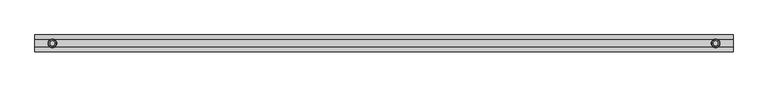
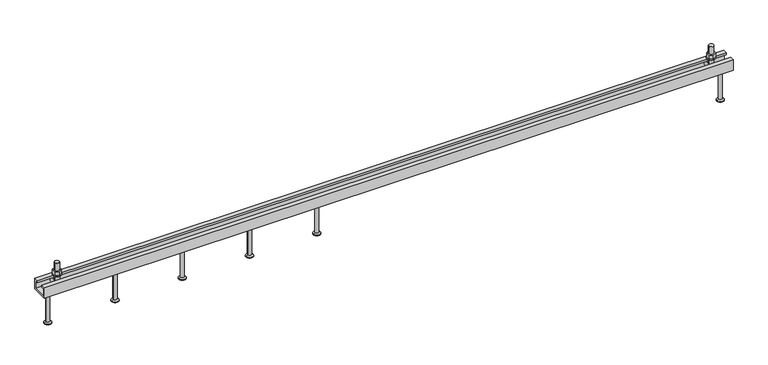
"""IFC4 building model written with IfcOpenShell, lengths in millimetres: fastener geometry, JTA-W JORDAHL® AnchorChannels : JTA-W L=3000 mm."""

import ifcopenshell
import ifcopenshell.guid

model = None  # the IFC model being written
_history = None  # IfcOwnerHistory: only IFC2X3 demands one
_inside = {}  # id of a spatial element -> (the spatial element, [elements in it])
_under = {}  # id of a project, library or spatial element -> (it, [spatial elements below it])
_declared = {}  # id of a project -> (the project, [libraries it declares])
_typed = {}  # id of a type object -> (the type object, [elements of that type])
_made_of = {}  # id of a material, layer set ... -> (it, [elements and type objects made of it])


def new_model(schema):
    """Start an empty IFC model of exactly this schema.

    Asked for "IFC4X3", IfcOpenShell would pick the latest addendum, in which some entities
    have other attributes; the version numbers below select the first issue.
    IFC2X3 requires an IfcOwnerHistory on every rooted entity: one is made here for all.
    """
    global model, _history
    if schema == "IFC4X3":
        model = ifcopenshell.file(schema_version=(4, 3, 0, 0))
    else:
        model = ifcopenshell.file(schema=schema)
    _inside.clear()
    _under.clear()
    _declared.clear()
    _typed.clear()
    _made_of.clear()
    _history = None
    if model.schema == "IFC2X3":
        org = make("IfcOrganization", Name="unknown")
        user = make(
            "IfcPersonAndOrganization",
            ThePerson=make("IfcPerson", FamilyName="unknown"),
            TheOrganization=org,
        )
        app = make(
            "IfcApplication",
            ApplicationDeveloper=org,
            Version="unknown",
            ApplicationFullName="unknown",
            ApplicationIdentifier="unknown",
        )
        _history = make(
            "IfcOwnerHistory",
            OwningUser=user,
            OwningApplication=app,
            ChangeAction="ADDED",
            CreationDate=0,
        )
    return model


def make(cls, **values):
    """One entity of the class cls with the attributes given. An attribute that is None is left unset."""
    return model.create_entity(
        cls, **{name: value for name, value in values.items() if value is not None}
    )


def rooted(cls, **values):
    """An entity with a GlobalId (a new one), such as an element, a storey or a relation."""
    return make(cls, GlobalId=ifcopenshell.guid.new(), OwnerHistory=_history, **values)


def si_unit(unit_type, name, prefix=None):
    """IfcSIUnit, for example si_unit("LENGTHUNIT", "METRE", prefix="MILLI")."""
    return make("IfcSIUnit", UnitType=unit_type, Prefix=prefix, Name=name)


def assignment(units):
    """IfcUnitAssignment: the units of a project."""
    return None if units is None else make("IfcUnitAssignment", Units=units)


def point(xyz):
    """IfcCartesianPoint."""
    return None if xyz is None else make("IfcCartesianPoint", Coordinates=xyz)


def direction(xyz):
    """IfcDirection."""
    return None if xyz is None else make("IfcDirection", DirectionRatios=xyz)


def frame(location, z_axis=None, x_axis=None):
    """IfcAxis2Placement3D, a coordinate frame: its origin and axes. An axis left out is left unset."""
    return make(
        "IfcAxis2Placement3D",
        Location=point(location),
        Axis=direction(z_axis),
        RefDirection=direction(x_axis),
    )


def frame_2d(location, x_axis=None):
    """IfcAxis2Placement2D, a coordinate frame in the plane: its origin and x axis."""
    return make(
        "IfcAxis2Placement2D", Location=point(location), RefDirection=direction(x_axis)
    )


def origin():
    """The frame at (0, 0, 0) with its axes left unset."""
    return frame((0.0, 0.0, 0.0))


def place(relative_to, where):
    """IfcLocalPlacement: puts the frame where relative to a parent placement (None: the world)."""
    return make(
        "IfcLocalPlacement", PlacementRelTo=relative_to, RelativePlacement=where
    )


def context(
    kind, dimensions, precision=None, world=None, true_north=None, identifier=None
):
    """IfcGeometricRepresentationContext, for example the 3D "Model" context."""
    return make(
        "IfcGeometricRepresentationContext",
        ContextIdentifier=identifier,
        ContextType=kind,
        CoordinateSpaceDimension=dimensions,
        Precision=precision,
        WorldCoordinateSystem=world,
        TrueNorth=true_north,
    )


def project(units=None, contexts=None):
    """IfcProject with its units and contexts."""
    return rooted(
        "IfcProject",
        Name="project",
        RepresentationContexts=contexts,
        UnitsInContext=assignment(units),
    )


def spatial(cls, under=None, at=None, **own):
    """A site, building, storey or space (cls), placed at a placement, below another one or the project."""
    s = rooted(cls, ObjectPlacement=at, **own)
    if under is not None:
        _under.setdefault(under.id(), (under, []))[1].append(s)
    return s


def polyline(points):
    """IfcPolyline through the points."""
    return make("IfcPolyline", Points=[point(p) for p in points])


def circle_curve(where, radius):
    """IfcCircle in the frame where."""
    return make("IfcCircle", Position=where, Radius=radius)


def trimmed(basis, trim1, trim2, sense, master):
    """IfcTrimmedCurve: the piece of a basis curve between two trims."""
    return make(
        "IfcTrimmedCurve",
        BasisCurve=basis,
        Trim1=trim1,
        Trim2=trim2,
        SenseAgreement=sense,
        MasterRepresentation=master,
    )


def segment(curve, same_sense, transition):
    """IfcCompositeCurveSegment."""
    return make(
        "IfcCompositeCurveSegment",
        Transition=transition,
        SameSense=same_sense,
        ParentCurve=curve,
    )


def composite_curve(segments, self_intersect=None):
    """IfcCompositeCurve: segments joined end to end."""
    return make("IfcCompositeCurve", Segments=segments, SelfIntersect=self_intersect)


def outline(outer, holes=None, kind="AREA"):
    """IfcArbitraryClosedProfileDef: a profile drawn as a closed curve; with holes, ...WithVoids."""
    if holes is None:
        return make("IfcArbitraryClosedProfileDef", ProfileType=kind, OuterCurve=outer)
    return make(
        "IfcArbitraryProfileDefWithVoids",
        ProfileType=kind,
        OuterCurve=outer,
        InnerCurves=holes,
    )


def extrude(swept, where, along, depth):
    """IfcExtrudedAreaSolid: the profile swept, set in the frame where, extruded along a direction by depth."""
    return make(
        "IfcExtrudedAreaSolid",
        SweptArea=swept,
        Position=where,
        ExtrudedDirection=direction(along),
        Depth=depth,
    )


def shape(context_of_items, identifier, shape_type, items):
    """IfcShapeRepresentation: the items that make up one representation, for example the "Body"."""
    return make(
        "IfcShapeRepresentation",
        ContextOfItems=context_of_items,
        RepresentationIdentifier=identifier,
        RepresentationType=shape_type,
        Items=items,
    )


def source(mapping_origin, context_of_items, identifier, shape_type, items):
    """IfcRepresentationMap: a shape defined once, which mapped items show again and again."""
    return make(
        "IfcRepresentationMap",
        MappingOrigin=mapping_origin,
        MappedRepresentation=shape(context_of_items, identifier, shape_type, items),
    )


def transform(
    local_origin,
    x_axis=None,
    y_axis=None,
    z_axis=None,
    scale=None,
    scale2=None,
    scale3=None,
    uniform=True,
):
    """IfcCartesianTransformationOperator3D, or its non-uniform kind. x_axis, y_axis, z_axis: its Axis1, 2, 3."""
    if uniform:
        return make(
            "IfcCartesianTransformationOperator3D",
            Axis1=direction(x_axis),
            Axis2=direction(y_axis),
            LocalOrigin=point(local_origin),
            Scale=scale,
            Axis3=direction(z_axis),
        )
    return make(
        "IfcCartesianTransformationOperator3DnonUniform",
        Axis1=direction(x_axis),
        Axis2=direction(y_axis),
        LocalOrigin=point(local_origin),
        Scale=scale,
        Axis3=direction(z_axis),
        Scale2=scale2,
        Scale3=scale3,
    )


def mapped(mapping_source, mapping_target):
    """IfcMappedItem: shows the shape of a source again, moved by a transform."""
    return make(
        "IfcMappedItem", MappingSource=mapping_source, MappingTarget=mapping_target
    )


def made_of(thing, what):
    """Note that an element or type object is made of a material, layer set ...; save() writes the relation."""
    if what is not None:
        _made_of.setdefault(what.id(), (what, []))[1].append(thing)
    return thing


def element(
    cls,
    number,
    at=None,
    inside=None,
    cuts=None,
    type_object=None,
    material=None,
    context=None,
    identifier="Body",
    shape_type=None,
    held_by="IfcProductDefinitionShape",
    body=None,
    shapes=None,
    **own,
):
    """One element of the class cls, such as IfcWall. Its Tag is "e" and its number.

    at: its placement. inside: the storey or other place that contains it. cuts: it is an
    opening in that element (IfcRelVoidsElement). A single representation is given by context,
    identifier, shape_type and body (its items); several are given by shapes. held_by: the class
    of the entity that holds the representations. save() writes the other relations.
    """
    e = rooted(cls, Tag="e%d" % number, ObjectPlacement=at, **own)
    if body is not None:
        shapes = [shape(context, identifier, shape_type, body)]
    if shapes is not None:
        e.Representation = make(held_by, Representations=shapes)
    if inside is not None:
        _inside.setdefault(inside.id(), (inside, []))[1].append(e)
    if cuts is not None:
        rooted(
            "IfcRelVoidsElement", RelatingBuildingElement=cuts, RelatedOpeningElement=e
        )
    if type_object is not None:
        _typed.setdefault(type_object.id(), (type_object, []))[1].append(e)
    return made_of(e, material)


def aggregate(whole, parts):
    """IfcRelAggregates: a whole, such as a stair, and the parts it consists of."""
    return rooted("IfcRelAggregates", RelatingObject=whole, RelatedObjects=parts)


def save(model, path):
    """Write the relations noted so far, then the file.

    IfcRelAggregates (storeys below a building ...), IfcRelContainedInSpatialStructure (elements
    in a storey), IfcRelDefinesByType, IfcRelAssociatesMaterial and IfcRelDeclares: one each for
    every whole, place, type object, material and project.
    """
    for whole, parts in _under.values():
        aggregate(whole, parts)
    for where, things in _inside.values():
        rooted(
            "IfcRelContainedInSpatialStructure",
            RelatedElements=things,
            RelatingStructure=where,
        )
    for kind, things in _typed.values():
        rooted("IfcRelDefinesByType", RelatedObjects=things, RelatingType=kind)
    for what, things in _made_of.values():
        rooted("IfcRelAssociatesMaterial", RelatedObjects=things, RelatingMaterial=what)
    for by, libraries in _declared.values():
        rooted("IfcRelDeclares", RelatingContext=by, RelatedDefinitions=libraries)
    model.write(path)


def plane_surface(at):
    """IfcPlane: the flat surface through the origin of the frame at, square to its z axis."""
    return make("IfcPlane", Position=at)


def cylinder_surface(at, radius):
    """IfcCylindricalSurface: all points at the distance radius from the z axis of the frame at."""
    return make("IfcCylindricalSurface", Position=at, Radius=radius)


def revolved_surface(curve, axis_point, axis_direction):
    """IfcSurfaceOfRevolution: the curve turned about the line through axis_point along axis_direction."""
    return make(
        "IfcSurfaceOfRevolution",
        SweptCurve=make("IfcArbitraryOpenProfileDef", ProfileType="CURVE", Curve=curve),
        AxisPosition=make("IfcAxis1Placement", Location=point(axis_point), Axis=direction(axis_direction)),
    )


def advanced_brep(points, edges, surfaces, faces):
    """IfcAdvancedBrep: a solid bounded by faces that lie on surfaces and meet in shared edges.

    An edge is (start, end): straight between two places in points (the first is 0);
    or (start, end, curve); or (start, end, curve, False) where it runs against its curve.
    A face is (place in surfaces, loops), or (place, loops, False) where it looks against
    its surface's normal. A loop lists edges by number (the first is 1), with a minus sign
    where the edge is run from its end to its start. The first loop is the outer one.
    """
    corners = [point(p) for p in points]
    vertices = [make("IfcVertexPoint", VertexGeometry=c) for c in corners]
    made = []
    for start, end, *more in edges:
        made.append(
            make(
                "IfcEdgeCurve",
                EdgeStart=vertices[start],
                EdgeEnd=vertices[end],
                EdgeGeometry=more[0] if more else make("IfcPolyline", Points=[corners[start], corners[end]]),
                SameSense=more[1] if len(more) > 1 else True,
            )
        )
    hull = []
    for where, loops, *sense in faces:
        bounds = []
        for j, loop in enumerate(loops):
            ring = [make("IfcOrientedEdge", EdgeElement=made[abs(k) - 1], Orientation=k > 0) for k in loop]
            bounds.append(
                make(
                    "IfcFaceOuterBound" if j == 0 else "IfcFaceBound",
                    Bound=make("IfcEdgeLoop", EdgeList=ring),
                    Orientation=True,
                )
            )
        hull.append(make("IfcAdvancedFace", Bounds=bounds, FaceSurface=surfaces[where], SameSense=sense[0] if sense else True))
    return make("IfcAdvancedBrep", Outer=make("IfcClosedShell", CfsFaces=hull))


def fastener_a4edf127(model_context):
    return source(origin(), model_context, "Body", "SolidModel", [
        advanced_brep(
        [(1207.0, 0.0, -48.0), (1230.0, 0.0, -48.0), (1184.0, 0.0, -48.0), (1191.5, 0.0, -195.0), (1222.5, 0.0, -195.0), (1207.0, 0.0, -195.0), (1191.5, 0.0, -193.0), (1222.5, 0.0, -193.0), (1199.2, 0.0, -188.5544029), (1214.8, 0.0, -188.5544029), (1199.2, 0.0, -52.0), (1214.8, 0.0, -52.0)],
        [
            (0, 1),
            (1, 2, circle_curve(frame((1207.0, 0.0, -48.0), z_axis=(0.0, 0.0, 1.0), x_axis=(1.0, 0.0, 0.0)), 23.0)),
            (2, 0),
            (2, 1, circle_curve(frame((1207.0, 0.0, -48.0), z_axis=(0.0, 0.0, 1.0), x_axis=(1.0, 0.0, 0.0)), 23.0)),
            (3, 4, circle_curve(frame((1207.0, 0.0, -195.0), z_axis=(0.0, 0.0, -1.0), x_axis=(1.0, 0.0, 0.0)), 15.5)),
            (4, 5),
            (5, 3),
            (4, 3, circle_curve(frame((1207.0, 0.0, -195.0), z_axis=(0.0, 0.0, -1.0), x_axis=(1.0, 0.0, 0.0)), 15.5)),
            (6, 7, circle_curve(frame((1207.0, 0.0, -193.0), z_axis=(0.0, 0.0, -1.0), x_axis=(1.0, 0.0, 0.0)), 15.5)),
            (7, 4),
            (3, 6),
            (7, 6, circle_curve(frame((1207.0, 0.0, -193.0), z_axis=(0.0, 0.0, -1.0), x_axis=(1.0, 0.0, 0.0)), 15.5)),
            (8, 9, circle_curve(frame((1207.0, 0.0, -188.5544029), z_axis=(0.0, 0.0, -1.0), x_axis=(1.0, 0.0, 0.0)), 7.8)),
            (9, 7),
            (6, 8),
            (9, 8, circle_curve(frame((1207.0, 0.0, -188.5544029), z_axis=(0.0, 0.0, -1.0), x_axis=(1.0, 0.0, 0.0)), 7.8)),
            (10, 11, circle_curve(frame((1207.0, 0.0, -52.0), z_axis=(0.0, 0.0, -1.0), x_axis=(1.0, 0.0, 0.0)), 7.8)),
            (11, 9),
            (8, 10),
            (11, 10, circle_curve(frame((1207.0, 0.0, -52.0), z_axis=(0.0, 0.0, -1.0), x_axis=(1.0, 0.0, 0.0)), 7.8)),
            (1, 11),
            (10, 2),
        ],
        [
            plane_surface(frame((1207.0, 0.0, -48.0), z_axis=(0.0, 0.0, 1.0), x_axis=(1.0, 0.0, 0.0))),
            plane_surface(frame((1207.0, 0.0, -195.0), z_axis=(0.0, 0.0, -1.0), x_axis=(1.0, 0.0, 0.0))),
            cylinder_surface(frame((1207.0, 0.0, 2361.3150031), z_axis=(0.0, 0.0, 1.0), x_axis=(1.0, 0.0, 0.0)), 15.5),
            revolved_surface(polyline([(1222.5, 0.0, -193.0), (1214.8, 0.0, -188.5544029)]), (1207.0, 0.0, 2361.3150031), (0.0, 0.0, 1.0)),
            cylinder_surface(frame((1207.0, 0.0, 2361.3150031), z_axis=(0.0, 0.0, 1.0), x_axis=(1.0, 0.0, 0.0)), 7.8),
            revolved_surface(polyline([(1214.8, 0.0, -52.0), (1230.0, 0.0, -48.0)]), (1207.0, 0.0, 2361.3150031), (0.0, 0.0, 1.0)),
        ],
        [
            (0, [[1, 2, 3]]),
            (0, [[-3, 4, -1]]),
            (1, [[5, 6, 7]]),
            (1, [[8, -7, -6]]),
            (2, [[9, 10, -5, 11]]),
            (2, [[12, -11, -8, -10]]),
            (3, [[13, 14, -9, 15]]),
            (3, [[16, -15, -12, -14]]),
            (4, [[17, 18, -13, 19]]),
            (4, [[20, -19, -16, -18]]),
            (5, [[-2, 21, -17, 22]]),
            (5, [[-4, -22, -20, -21]]),
        ],
    ),
        advanced_brep(
        [(914.0, 0.0, -48.0), (937.0, 0.0, -48.0), (891.0, 0.0, -48.0), (898.5, 0.0, -195.0), (929.5, 0.0, -195.0), (914.0, 0.0, -195.0), (898.5, 0.0, -193.0), (929.5, 0.0, -193.0), (906.2, 0.0, -188.5544029), (921.8, 0.0, -188.5544029), (906.2, 0.0, -52.0), (921.8, 0.0, -52.0)],
        [
            (0, 1),
            (1, 2, circle_curve(frame((914.0, 0.0, -48.0), z_axis=(0.0, 0.0, 1.0), x_axis=(1.0, 0.0, 0.0)), 23.0)),
            (2, 0),
            (2, 1, circle_curve(frame((914.0, 0.0, -48.0), z_axis=(0.0, 0.0, 1.0), x_axis=(1.0, 0.0, 0.0)), 23.0)),
            (3, 4, circle_curve(frame((914.0, 0.0, -195.0), z_axis=(0.0, 0.0, -1.0), x_axis=(1.0, 0.0, 0.0)), 15.5)),
            (4, 5),
            (5, 3),
            (4, 3, circle_curve(frame((914.0, 0.0, -195.0), z_axis=(0.0, 0.0, -1.0), x_axis=(1.0, 0.0, 0.0)), 15.5)),
            (6, 7, circle_curve(frame((914.0, 0.0, -193.0), z_axis=(0.0, 0.0, -1.0), x_axis=(1.0, 0.0, 0.0)), 15.5)),
            (7, 4),
            (3, 6),
            (7, 6, circle_curve(frame((914.0, 0.0, -193.0), z_axis=(0.0, 0.0, -1.0), x_axis=(1.0, 0.0, 0.0)), 15.5)),
            (8, 9, circle_curve(frame((914.0, 0.0, -188.5544029), z_axis=(0.0, 0.0, -1.0), x_axis=(1.0, 0.0, 0.0)), 7.8)),
            (9, 7),
            (6, 8),
            (9, 8, circle_curve(frame((914.0, 0.0, -188.5544029), z_axis=(0.0, 0.0, -1.0), x_axis=(1.0, 0.0, 0.0)), 7.8)),
            (10, 11, circle_curve(frame((914.0, 0.0, -52.0), z_axis=(0.0, 0.0, -1.0), x_axis=(1.0, 0.0, 0.0)), 7.8)),
            (11, 9),
            (8, 10),
            (11, 10, circle_curve(frame((914.0, 0.0, -52.0), z_axis=(0.0, 0.0, -1.0), x_axis=(1.0, 0.0, 0.0)), 7.8)),
            (1, 11),
            (10, 2),
        ],
        [
            plane_surface(frame((914.0, 0.0, -48.0), z_axis=(0.0, 0.0, 1.0), x_axis=(1.0, 0.0, 0.0))),
            plane_surface(frame((914.0, 0.0, -195.0), z_axis=(0.0, 0.0, -1.0), x_axis=(1.0, 0.0, 0.0))),
            cylinder_surface(frame((914.0, 0.0, 2361.3150031), z_axis=(0.0, 0.0, 1.0), x_axis=(1.0, 0.0, 0.0)), 15.5),
            revolved_surface(polyline([(929.5, 0.0, -193.0), (921.8, 0.0, -188.5544029)]), (914.0, 0.0, 2361.3150031), (0.0, 0.0, 1.0)),
            cylinder_surface(frame((914.0, 0.0, 2361.3150031), z_axis=(0.0, 0.0, 1.0), x_axis=(1.0, 0.0, 0.0)), 7.8),
            revolved_surface(polyline([(921.8, 0.0, -52.0), (937.0, 0.0, -48.0)]), (914.0, 0.0, 2361.3150031), (0.0, 0.0, 1.0)),
        ],
        [
            (0, [[1, 2, 3]]),
            (0, [[-3, 4, -1]]),
            (1, [[5, 6, 7]]),
            (1, [[8, -7, -6]]),
            (2, [[9, 10, -5, 11]]),
            (2, [[12, -11, -8, -10]]),
            (3, [[13, 14, -9, 15]]),
            (3, [[16, -15, -12, -14]]),
            (4, [[17, 18, -13, 19]]),
            (4, [[20, -19, -16, -18]]),
            (5, [[-2, 21, -17, 22]]),
            (5, [[-4, -22, -20, -21]]),
        ],
    ),
        advanced_brep(
        [(621.0, 0.0, -48.0), (644.0, 0.0, -48.0), (598.0, 0.0, -48.0), (605.5, 0.0, -195.0), (636.5, 0.0, -195.0), (621.0, 0.0, -195.0), (605.5, 0.0, -193.0), (636.5, 0.0, -193.0), (613.2, 0.0, -188.5544029), (628.8, 0.0, -188.5544029), (613.2, 0.0, -52.0), (628.8, 0.0, -52.0)],
        [
            (0, 1),
            (1, 2, circle_curve(frame((621.0, 0.0, -48.0), z_axis=(0.0, 0.0, 1.0), x_axis=(1.0, 0.0, 0.0)), 23.0)),
            (2, 0),
            (2, 1, circle_curve(frame((621.0, 0.0, -48.0), z_axis=(0.0, 0.0, 1.0), x_axis=(1.0, 0.0, 0.0)), 23.0)),
            (3, 4, circle_curve(frame((621.0, 0.0, -195.0), z_axis=(0.0, 0.0, -1.0), x_axis=(1.0, 0.0, 0.0)), 15.5)),
            (4, 5),
            (5, 3),
            (4, 3, circle_curve(frame((621.0, 0.0, -195.0), z_axis=(0.0, 0.0, -1.0), x_axis=(1.0, 0.0, 0.0)), 15.5)),
            (6, 7, circle_curve(frame((621.0, 0.0, -193.0), z_axis=(0.0, 0.0, -1.0), x_axis=(1.0, 0.0, 0.0)), 15.5)),
            (7, 4),
            (3, 6),
            (7, 6, circle_curve(frame((621.0, 0.0, -193.0), z_axis=(0.0, 0.0, -1.0), x_axis=(1.0, 0.0, 0.0)), 15.5)),
            (8, 9, circle_curve(frame((621.0, 0.0, -188.5544029), z_axis=(0.0, 0.0, -1.0), x_axis=(1.0, 0.0, 0.0)), 7.8)),
            (9, 7),
            (6, 8),
            (9, 8, circle_curve(frame((621.0, 0.0, -188.5544029), z_axis=(0.0, 0.0, -1.0), x_axis=(1.0, 0.0, 0.0)), 7.8)),
            (10, 11, circle_curve(frame((621.0, 0.0, -52.0), z_axis=(0.0, 0.0, -1.0), x_axis=(1.0, 0.0, 0.0)), 7.8)),
            (11, 9),
            (8, 10),
            (11, 10, circle_curve(frame((621.0, 0.0, -52.0), z_axis=(0.0, 0.0, -1.0), x_axis=(1.0, 0.0, 0.0)), 7.8)),
            (1, 11),
            (10, 2),
        ],
        [
            plane_surface(frame((621.0, 0.0, -48.0), z_axis=(0.0, 0.0, 1.0), x_axis=(1.0, 0.0, 0.0))),
            plane_surface(frame((621.0, 0.0, -195.0), z_axis=(0.0, 0.0, -1.0), x_axis=(1.0, 0.0, 0.0))),
            cylinder_surface(frame((621.0, 0.0, 2361.3150031), z_axis=(0.0, 0.0, 1.0), x_axis=(1.0, 0.0, 0.0)), 15.5),
            revolved_surface(polyline([(636.5, 0.0, -193.0), (628.8, 0.0, -188.5544029)]), (621.0, 0.0, 2361.3150031), (0.0, 0.0, 1.0)),
            cylinder_surface(frame((621.0, 0.0, 2361.3150031), z_axis=(0.0, 0.0, 1.0), x_axis=(1.0, 0.0, 0.0)), 7.8),
            revolved_surface(polyline([(628.8, 0.0, -52.0), (644.0, 0.0, -48.0)]), (621.0, 0.0, 2361.3150031), (0.0, 0.0, 1.0)),
        ],
        [
            (0, [[1, 2, 3]]),
            (0, [[-3, 4, -1]]),
            (1, [[5, 6, 7]]),
            (1, [[8, -7, -6]]),
            (2, [[9, 10, -5, 11]]),
            (2, [[12, -11, -8, -10]]),
            (3, [[13, 14, -9, 15]]),
            (3, [[16, -15, -12, -14]]),
            (4, [[17, 18, -13, 19]]),
            (4, [[20, -19, -16, -18]]),
            (5, [[-2, 21, -17, 22]]),
            (5, [[-4, -22, -20, -21]]),
        ],
    ),
        advanced_brep(
        [(328.0, 0.0, -48.0), (351.0, 0.0, -48.0), (305.0, 0.0, -48.0), (312.5, 0.0, -195.0), (343.5, 0.0, -195.0), (328.0, 0.0, -195.0), (312.5, 0.0, -193.0), (343.5, 0.0, -193.0), (320.2, 0.0, -188.5544029), (335.8, 0.0, -188.5544029), (320.2, 0.0, -52.0), (335.8, 0.0, -52.0)],
        [
            (0, 1),
            (1, 2, circle_curve(frame((328.0, 0.0, -48.0), z_axis=(0.0, 0.0, 1.0), x_axis=(1.0, 0.0, 0.0)), 23.0)),
            (2, 0),
            (2, 1, circle_curve(frame((328.0, 0.0, -48.0), z_axis=(0.0, 0.0, 1.0), x_axis=(1.0, 0.0, 0.0)), 23.0)),
            (3, 4, circle_curve(frame((328.0, 0.0, -195.0), z_axis=(0.0, 0.0, -1.0), x_axis=(1.0, 0.0, 0.0)), 15.5)),
            (4, 5),
            (5, 3),
            (4, 3, circle_curve(frame((328.0, 0.0, -195.0), z_axis=(0.0, 0.0, -1.0), x_axis=(1.0, 0.0, 0.0)), 15.5)),
            (6, 7, circle_curve(frame((328.0, 0.0, -193.0), z_axis=(0.0, 0.0, -1.0), x_axis=(1.0, 0.0, 0.0)), 15.5)),
            (7, 4),
            (3, 6),
            (7, 6, circle_curve(frame((328.0, 0.0, -193.0), z_axis=(0.0, 0.0, -1.0), x_axis=(1.0, 0.0, 0.0)), 15.5)),
            (8, 9, circle_curve(frame((328.0, 0.0, -188.5544029), z_axis=(0.0, 0.0, -1.0), x_axis=(1.0, 0.0, 0.0)), 7.8)),
            (9, 7),
            (6, 8),
            (9, 8, circle_curve(frame((328.0, 0.0, -188.5544029), z_axis=(0.0, 0.0, -1.0), x_axis=(1.0, 0.0, 0.0)), 7.8)),
            (10, 11, circle_curve(frame((328.0, 0.0, -52.0), z_axis=(0.0, 0.0, -1.0), x_axis=(1.0, 0.0, 0.0)), 7.8)),
            (11, 9),
            (8, 10),
            (11, 10, circle_curve(frame((328.0, 0.0, -52.0), z_axis=(0.0, 0.0, -1.0), x_axis=(1.0, 0.0, 0.0)), 7.8)),
            (1, 11),
            (10, 2),
        ],
        [
            plane_surface(frame((328.0, 0.0, -48.0), z_axis=(0.0, 0.0, 1.0), x_axis=(1.0, 0.0, 0.0))),
            plane_surface(frame((328.0, 0.0, -195.0), z_axis=(0.0, 0.0, -1.0), x_axis=(1.0, 0.0, 0.0))),
            cylinder_surface(frame((328.0, 0.0, 2361.3150031), z_axis=(0.0, 0.0, 1.0), x_axis=(1.0, 0.0, 0.0)), 15.5),
            revolved_surface(polyline([(343.5, 0.0, -193.0), (335.8, 0.0, -188.5544029)]), (328.0, 0.0, 2361.3150031), (0.0, 0.0, 1.0)),
            cylinder_surface(frame((328.0, 0.0, 2361.3150031), z_axis=(0.0, 0.0, 1.0), x_axis=(1.0, 0.0, 0.0)), 7.8),
            revolved_surface(polyline([(335.8, 0.0, -52.0), (351.0, 0.0, -48.0)]), (328.0, 0.0, 2361.3150031), (0.0, 0.0, 1.0)),
        ],
        [
            (0, [[1, 2, 3]]),
            (0, [[-3, 4, -1]]),
            (1, [[5, 6, 7]]),
            (1, [[8, -7, -6]]),
            (2, [[9, 10, -5, 11]]),
            (2, [[12, -11, -8, -10]]),
            (3, [[13, 14, -9, 15]]),
            (3, [[16, -15, -12, -14]]),
            (4, [[17, 18, -13, 19]]),
            (4, [[20, -19, -16, -18]]),
            (5, [[-2, 21, -17, 22]]),
            (5, [[-4, -22, -20, -21]]),
        ],
    ),
        extrude(outline(polyline([(2925.0, 17.3205081), (2940.0, 8.660254), (2940.0, -8.660254), (2925.0, -17.3205081), (2910.0, -8.660254), (2910.0, 8.660254), (2925.0, 17.3205081)]), holes=[composite_curve([segment(trimmed(circle_curve(frame_2d((2925.0, 0.0)), 10.0), [point((2915.0, 0.0))], [point((2935.0, 0.0))], True, "CARTESIAN"), True, "CONTINUOUS"), segment(trimmed(circle_curve(frame_2d((2925.0, 0.0)), 10.0), [point((2935.0, 0.0))], [point((2915.0, 0.0))], True, "CARTESIAN"), True, "CONTINUOUS")], self_intersect=False)]), frame((0.0, 0.0, 18.0), z_axis=(0.0, 0.0, 1.0), x_axis=(1.0, 0.0, 0.0)), (0.0, 0.0, 1.0), 18.0),
        extrude(outline(composite_curve([segment(trimmed(circle_curve(frame_2d((2925.0, 0.0)), 18.5), [point((2906.5, 0.0))], [point((2943.5, 0.0))], False, "CARTESIAN"), True, "CONTINUOUS"), segment(trimmed(circle_curve(frame_2d((2925.0, 0.0)), 18.5), [point((2943.5, 0.0))], [point((2906.5, 0.0))], False, "CARTESIAN"), True, "CONTINUOUS")], self_intersect=False), holes=[composite_curve([segment(trimmed(circle_curve(frame_2d((2925.0, 0.0)), 10.5), [point((2914.5, 0.0))], [point((2935.5, 0.0))], True, "CARTESIAN"), True, "CONTINUOUS"), segment(trimmed(circle_curve(frame_2d((2925.0, 0.0)), 10.5), [point((2935.5, 0.0))], [point((2914.5, 0.0))], True, "CARTESIAN"), True, "CONTINUOUS")], self_intersect=False)]), frame((0.0, 0.0, 15.0), z_axis=(0.0, 0.0, 1.0), x_axis=(1.0, 0.0, 0.0)), (0.0, 0.0, 1.0), 3.0),
        extrude(outline(polyline([(75.0, 17.3205081), (90.0, 8.660254), (90.0, -8.660254), (75.0, -17.3205081), (60.0, -8.660254), (60.0, 8.660254), (75.0, 17.3205081)]), holes=[composite_curve([segment(trimmed(circle_curve(frame_2d((75.0, 0.0)), 10.0), [point((65.0, 0.0))], [point((85.0, 0.0))], True, "CARTESIAN"), True, "CONTINUOUS"), segment(trimmed(circle_curve(frame_2d((75.0, 0.0)), 10.0), [point((85.0, 0.0))], [point((65.0, 0.0))], True, "CARTESIAN"), True, "CONTINUOUS")], self_intersect=False)]), frame((0.0, 0.0, 18.0), z_axis=(0.0, 0.0, 1.0), x_axis=(1.0, 0.0, 0.0)), (0.0, 0.0, 1.0), 18.0),
        extrude(outline(composite_curve([segment(trimmed(circle_curve(frame_2d((75.0, 0.0)), 18.5), [point((56.5, 0.0))], [point((93.5, 0.0))], False, "CARTESIAN"), True, "CONTINUOUS"), segment(trimmed(circle_curve(frame_2d((75.0, 0.0)), 18.5), [point((93.5, 0.0))], [point((56.5, 0.0))], False, "CARTESIAN"), True, "CONTINUOUS")], self_intersect=False), holes=[composite_curve([segment(trimmed(circle_curve(frame_2d((75.0, 0.0)), 10.5), [point((64.5, 0.0))], [point((85.5, 0.0))], True, "CARTESIAN"), True, "CONTINUOUS"), segment(trimmed(circle_curve(frame_2d((75.0, 0.0)), 10.5), [point((85.5, 0.0))], [point((64.5, 0.0))], True, "CARTESIAN"), True, "CONTINUOUS")], self_intersect=False)]), frame((0.0, 0.0, 15.0), z_axis=(0.0, 0.0, 1.0), x_axis=(1.0, 0.0, 0.0)), (0.0, 0.0, 1.0), 3.0),
        advanced_brep(
        [(2937.5, 29.0, -10.0), (2937.5, -29.0, -10.0), (2937.5, -29.0, -30.0), (2937.5, 29.0, -30.0), (2912.5, 29.0, -10.0), (2912.5, 29.0, -30.0), (2912.5, -29.0, -30.0), (2912.5, -29.0, -10.0), (2935.0, 0.0, -10.0), (2915.0, 0.0, -10.0), (2915.0, 0.0, 70.0), (2935.0, 0.0, 70.0)],
        [
            (0, 1),
            (1, 2),
            (2, 3),
            (3, 0),
            (4, 5),
            (5, 6),
            (6, 7),
            (7, 4),
            (0, 4),
            (7, 1),
            (8, 9, circle_curve(frame((2925.0, 0.0, -10.0), z_axis=(0.0, 0.0, -1.0), x_axis=(1.0, 0.0, 0.0)), 10.0)),
            (9, 8, circle_curve(frame((2925.0, 0.0, -10.0), z_axis=(0.0, 0.0, -1.0), x_axis=(1.0, 0.0, 0.0)), 10.0)),
            (6, 2),
            (5, 3),
            (10, 11, circle_curve(frame((2925.0, 0.0, 70.0), z_axis=(0.0, 0.0, 1.0), x_axis=(1.0, 0.0, 0.0)), 10.0)),
            (11, 10, circle_curve(frame((2925.0, 0.0, 70.0), z_axis=(0.0, 0.0, 1.0), x_axis=(1.0, 0.0, 0.0)), 10.0)),
            (10, 9),
            (8, 11),
        ],
        [
            plane_surface(frame((2937.5, -29.0, -10.0), z_axis=(1.0, 0.0, 0.0), x_axis=(0.0, -1.0, 0.0))),
            plane_surface(frame((2912.5, -29.0, -10.0), z_axis=(-1.0, 0.0, 0.0), x_axis=(0.0, 1.0, 0.0))),
            plane_surface(frame((2937.5, 29.0, -10.0), z_axis=(0.0, 0.0, 1.0), x_axis=(-1.0, 0.0, 0.0))),
            plane_surface(frame((2937.5, -29.0, -10.0), z_axis=(0.0, -1.0, 0.0), x_axis=(-1.0, 0.0, 0.0))),
            plane_surface(frame((2937.5, -29.0, -30.0), z_axis=(0.0, 0.0, -1.0), x_axis=(-1.0, 0.0, 0.0))),
            plane_surface(frame((2937.5, 29.0, -30.0), z_axis=(0.0, 1.0, 0.0), x_axis=(-1.0, 0.0, 0.0))),
            plane_surface(frame((2935.0, 0.0, 70.0), z_axis=(0.0, 0.0, 1.0), x_axis=(0.0, 1.0, 0.0))),
            cylinder_surface(frame((2925.0, 0.0, -10.0), z_axis=(0.0, 0.0, 1.0), x_axis=(1.0, 0.0, 0.0)), 10.0),
        ],
        [
            (0, [[1, 2, 3, 4]]),
            (1, [[5, 6, 7, 8]]),
            (2, [[-1, 9, -8, 10], [11, 12]]),
            (3, [[-2, -10, -7, 13]]),
            (4, [[-3, -13, -6, 14]]),
            (5, [[-4, -14, -5, -9]]),
            (6, [[15, 16]]),
            (7, [[-15, 17, -11, 18]]),
            (7, [[-16, -18, -12, -17]]),
        ],
    ),
        advanced_brep(
        [(87.5, 29.0, -10.0), (87.5, -29.0, -10.0), (87.5, -29.0, -30.0), (87.5, 29.0, -30.0), (62.5, 29.0, -10.0), (62.5, 29.0, -30.0), (62.5, -29.0, -30.0), (62.5, -29.0, -10.0), (85.0, 0.0, -10.0), (65.0, 0.0, -10.0), (65.0, 0.0, 70.0), (85.0, 0.0, 70.0)],
        [
            (0, 1),
            (1, 2),
            (2, 3),
            (3, 0),
            (4, 5),
            (5, 6),
            (6, 7),
            (7, 4),
            (0, 4),
            (7, 1),
            (8, 9, circle_curve(frame((75.0, 0.0, -10.0), z_axis=(0.0, 0.0, -1.0), x_axis=(1.0, 0.0, 0.0)), 10.0)),
            (9, 8, circle_curve(frame((75.0, 0.0, -10.0), z_axis=(0.0, 0.0, -1.0), x_axis=(1.0, 0.0, 0.0)), 10.0)),
            (6, 2),
            (5, 3),
            (10, 11, circle_curve(frame((75.0, 0.0, 70.0), z_axis=(0.0, 0.0, 1.0), x_axis=(1.0, 0.0, 0.0)), 10.0)),
            (11, 10, circle_curve(frame((75.0, 0.0, 70.0), z_axis=(0.0, 0.0, 1.0), x_axis=(1.0, 0.0, 0.0)), 10.0)),
            (10, 9),
            (8, 11),
        ],
        [
            plane_surface(frame((87.5, -29.0, -10.0), z_axis=(1.0, 0.0, 0.0), x_axis=(0.0, -1.0, 0.0))),
            plane_surface(frame((62.5, -29.0, -10.0), z_axis=(-1.0, 0.0, 0.0), x_axis=(0.0, 1.0, 0.0))),
            plane_surface(frame((87.5, 29.0, -10.0), z_axis=(0.0, 0.0, 1.0), x_axis=(-1.0, 0.0, 0.0))),
            plane_surface(frame((87.5, -29.0, -10.0), z_axis=(0.0, -1.0, 0.0), x_axis=(-1.0, 0.0, 0.0))),
            plane_surface(frame((87.5, -29.0, -30.0), z_axis=(0.0, 0.0, -1.0), x_axis=(-1.0, 0.0, 0.0))),
            plane_surface(frame((87.5, 29.0, -30.0), z_axis=(0.0, 1.0, 0.0), x_axis=(-1.0, 0.0, 0.0))),
            plane_surface(frame((85.0, 0.0, 70.0), z_axis=(0.0, 0.0, 1.0), x_axis=(0.0, 1.0, 0.0))),
            cylinder_surface(frame((75.0, 0.0, -10.0), z_axis=(0.0, 0.0, 1.0), x_axis=(1.0, 0.0, 0.0)), 10.0),
        ],
        [
            (0, [[1, 2, 3, 4]]),
            (1, [[5, 6, 7, 8]]),
            (2, [[-1, 9, -8, 10], [11, 12]]),
            (3, [[-2, -10, -7, 13]]),
            (4, [[-3, -13, -6, 14]]),
            (5, [[-4, -14, -5, -9]]),
            (6, [[15, 16]]),
            (7, [[-15, 17, -11, 18]]),
            (7, [[-16, -18, -12, -17]]),
        ],
    ),
        advanced_brep(
        [(2965.0, 0.0, -48.0), (2988.0, 0.0, -48.0), (2942.0, 0.0, -48.0), (2949.5, 0.0, -195.0), (2980.5, 0.0, -195.0), (2965.0, 0.0, -195.0), (2949.5, 0.0, -193.0), (2980.5, 0.0, -193.0), (2957.2, 0.0, -188.5544029), (2972.8, 0.0, -188.5544029), (2957.2, 0.0, -52.0), (2972.8, 0.0, -52.0)],
        [
            (0, 1),
            (1, 2, circle_curve(frame((2965.0, 0.0, -48.0), z_axis=(0.0, 0.0, 1.0), x_axis=(1.0, 0.0, 0.0)), 23.0)),
            (2, 0),
            (2, 1, circle_curve(frame((2965.0, 0.0, -48.0), z_axis=(0.0, 0.0, 1.0), x_axis=(1.0, 0.0, 0.0)), 23.0)),
            (3, 4, circle_curve(frame((2965.0, 0.0, -195.0), z_axis=(0.0, 0.0, -1.0), x_axis=(1.0, 0.0, 0.0)), 15.5)),
            (4, 5),
            (5, 3),
            (4, 3, circle_curve(frame((2965.0, 0.0, -195.0), z_axis=(0.0, 0.0, -1.0), x_axis=(1.0, 0.0, 0.0)), 15.5)),
            (6, 7, circle_curve(frame((2965.0, 0.0, -193.0), z_axis=(0.0, 0.0, -1.0), x_axis=(1.0, 0.0, 0.0)), 15.5)),
            (7, 4),
            (3, 6),
            (7, 6, circle_curve(frame((2965.0, 0.0, -193.0), z_axis=(0.0, 0.0, -1.0), x_axis=(1.0, 0.0, 0.0)), 15.5)),
            (8, 9, circle_curve(frame((2965.0, 0.0, -188.5544029), z_axis=(0.0, 0.0, -1.0), x_axis=(1.0, 0.0, 0.0)), 7.8)),
            (9, 7),
            (6, 8),
            (9, 8, circle_curve(frame((2965.0, 0.0, -188.5544029), z_axis=(0.0, 0.0, -1.0), x_axis=(1.0, 0.0, 0.0)), 7.8)),
            (10, 11, circle_curve(frame((2965.0, 0.0, -52.0), z_axis=(0.0, 0.0, -1.0), x_axis=(1.0, 0.0, 0.0)), 7.8)),
            (11, 9),
            (8, 10),
            (11, 10, circle_curve(frame((2965.0, 0.0, -52.0), z_axis=(0.0, 0.0, -1.0), x_axis=(1.0, 0.0, 0.0)), 7.8)),
            (1, 11),
            (10, 2),
        ],
        [
            plane_surface(frame((2965.0, 0.0, -48.0), z_axis=(0.0, 0.0, 1.0), x_axis=(1.0, 0.0, 0.0))),
            plane_surface(frame((2965.0, 0.0, -195.0), z_axis=(0.0, 0.0, -1.0), x_axis=(1.0, 0.0, 0.0))),
            cylinder_surface(frame((2965.0, 0.0, 2361.3150031), z_axis=(0.0, 0.0, 1.0), x_axis=(1.0, 0.0, 0.0)), 15.5),
            revolved_surface(polyline([(2980.5, 0.0, -193.0), (2972.8, 0.0, -188.5544029)]), (2965.0, 0.0, 2361.3150031), (0.0, 0.0, 1.0)),
            cylinder_surface(frame((2965.0, 0.0, 2361.3150031), z_axis=(0.0, 0.0, 1.0), x_axis=(1.0, 0.0, 0.0)), 7.8),
            revolved_surface(polyline([(2972.8, 0.0, -52.0), (2988.0, 0.0, -48.0)]), (2965.0, 0.0, 2361.3150031), (0.0, 0.0, 1.0)),
        ],
        [
            (0, [[1, 2, 3]]),
            (0, [[-3, 4, -1]]),
            (1, [[5, 6, 7]]),
            (1, [[8, -7, -6]]),
            (2, [[9, 10, -5, 11]]),
            (2, [[12, -11, -8, -10]]),
            (3, [[13, 14, -9, 15]]),
            (3, [[16, -15, -12, -14]]),
            (4, [[17, 18, -13, 19]]),
            (4, [[20, -19, -16, -18]]),
            (5, [[-2, 21, -17, 22]]),
            (5, [[-4, -22, -20, -21]]),
        ],
    ),
        advanced_brep(
        [(35.0, 0.0, -48.0), (58.0, 0.0, -48.0), (12.0, 0.0, -48.0), (19.5, 0.0, -195.0), (50.5, 0.0, -195.0), (35.0, 0.0, -195.0), (19.5, 0.0, -193.0), (50.5, 0.0, -193.0), (27.2, 0.0, -188.5544029), (42.8, 0.0, -188.5544029), (27.2, 0.0, -52.0), (42.8, 0.0, -52.0)],
        [
            (0, 1),
            (1, 2, circle_curve(frame((35.0, 0.0, -48.0), z_axis=(0.0, 0.0, 1.0), x_axis=(1.0, 0.0, 0.0)), 23.0)),
            (2, 0),
            (2, 1, circle_curve(frame((35.0, 0.0, -48.0), z_axis=(0.0, 0.0, 1.0), x_axis=(1.0, 0.0, 0.0)), 23.0)),
            (3, 4, circle_curve(frame((35.0, 0.0, -195.0), z_axis=(0.0, 0.0, -1.0), x_axis=(1.0, 0.0, 0.0)), 15.5)),
            (4, 5),
            (5, 3),
            (4, 3, circle_curve(frame((35.0, 0.0, -195.0), z_axis=(0.0, 0.0, -1.0), x_axis=(1.0, 0.0, 0.0)), 15.5)),
            (6, 7, circle_curve(frame((35.0, 0.0, -193.0), z_axis=(0.0, 0.0, -1.0), x_axis=(1.0, 0.0, 0.0)), 15.5)),
            (7, 4),
            (3, 6),
            (7, 6, circle_curve(frame((35.0, 0.0, -193.0), z_axis=(0.0, 0.0, -1.0), x_axis=(1.0, 0.0, 0.0)), 15.5)),
            (8, 9, circle_curve(frame((35.0, 0.0, -188.5544029), z_axis=(0.0, 0.0, -1.0), x_axis=(1.0, 0.0, 0.0)), 7.8)),
            (9, 7),
            (6, 8),
            (9, 8, circle_curve(frame((35.0, 0.0, -188.5544029), z_axis=(0.0, 0.0, -1.0), x_axis=(1.0, 0.0, 0.0)), 7.8)),
            (10, 11, circle_curve(frame((35.0, 0.0, -52.0), z_axis=(0.0, 0.0, -1.0), x_axis=(1.0, 0.0, 0.0)), 7.8)),
            (11, 9),
            (8, 10),
            (11, 10, circle_curve(frame((35.0, 0.0, -52.0), z_axis=(0.0, 0.0, -1.0), x_axis=(1.0, 0.0, 0.0)), 7.8)),
            (1, 11),
            (10, 2),
        ],
        [
            plane_surface(frame((35.0, 0.0, -48.0), z_axis=(0.0, 0.0, 1.0), x_axis=(1.0, 0.0, 0.0))),
            plane_surface(frame((35.0, 0.0, -195.0), z_axis=(0.0, 0.0, -1.0), x_axis=(1.0, 0.0, 0.0))),
            cylinder_surface(frame((35.0, 0.0, 2361.3150031), z_axis=(0.0, 0.0, 1.0), x_axis=(1.0, 0.0, 0.0)), 15.5),
            revolved_surface(polyline([(50.5, 0.0, -193.0), (42.8, 0.0, -188.5544029)]), (35.0, 0.0, 2361.3150031), (0.0, 0.0, 1.0)),
            cylinder_surface(frame((35.0, 0.0, 2361.3150031), z_axis=(0.0, 0.0, 1.0), x_axis=(1.0, 0.0, 0.0)), 7.8),
            revolved_surface(polyline([(42.8, 0.0, -52.0), (58.0, 0.0, -48.0)]), (35.0, 0.0, 2361.3150031), (0.0, 0.0, 1.0)),
        ],
        [
            (0, [[1, 2, 3]]),
            (0, [[-3, 4, -1]]),
            (1, [[5, 6, 7]]),
            (1, [[8, -7, -6]]),
            (2, [[9, 10, -5, 11]]),
            (2, [[12, -11, -8, -10]]),
            (3, [[13, 14, -9, 15]]),
            (3, [[16, -15, -12, -14]]),
            (4, [[17, 18, -13, 19]]),
            (4, [[20, -19, -16, -18]]),
            (5, [[-2, 21, -17, 22]]),
            (5, [[-4, -22, -20, -21]]),
        ],
    ),
        extrude(outline(polyline([(36.0, 0.0), (36.0, -48.0), (-36.0, -48.0), (-36.0, 0.0), (-16.5, 0.0), (-16.5, -10.0), (-31.0, -10.0), (-31.0, -43.0), (31.0, -43.0), (31.0, -10.0), (16.5, -10.0), (16.5, 0.0), (36.0, 0.0)])), frame((0.0, 0.0, 0.0), z_axis=(1.0, 0.0, 0.0), x_axis=(0.0, 1.0, 0.0)), (0.0, 0.0, 1.0), 3000.0),
    ])


if __name__ == "__main__":
    model = new_model("IFC4")
    model_context = context("Model", 3, world=origin())
    ifc_project = project(units=[si_unit("LENGTHUNIT", "METRE", prefix="MILLI")], contexts=[model_context])
    site = spatial("IfcSite", under=ifc_project)
    building = spatial("IfcBuilding", under=site)
    placement = place(None, origin())
    fastener_shape = fastener_a4edf127(model_context)
    element("IfcFastener", 1, ObjectType="JTA-W JORDAHL® AnchorChannels : JTA-W L=3000 mm", at=placement, inside=building, context=model_context, shape_type="MappedRepresentation", body=[
        mapped(fastener_shape, transform((0.0, 0.0, 0.0), x_axis=(1.0, 0.0, 0.0), y_axis=(0.0, 1.0, 0.0), z_axis=(0.0, 0.0, 1.0))),
    ])
    save(model, "model.ifc")
